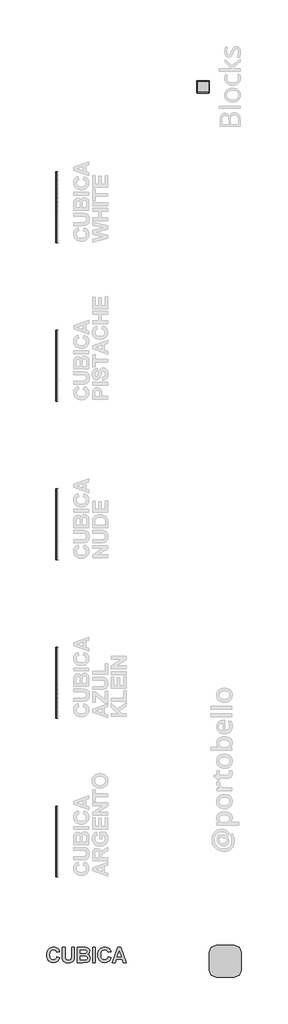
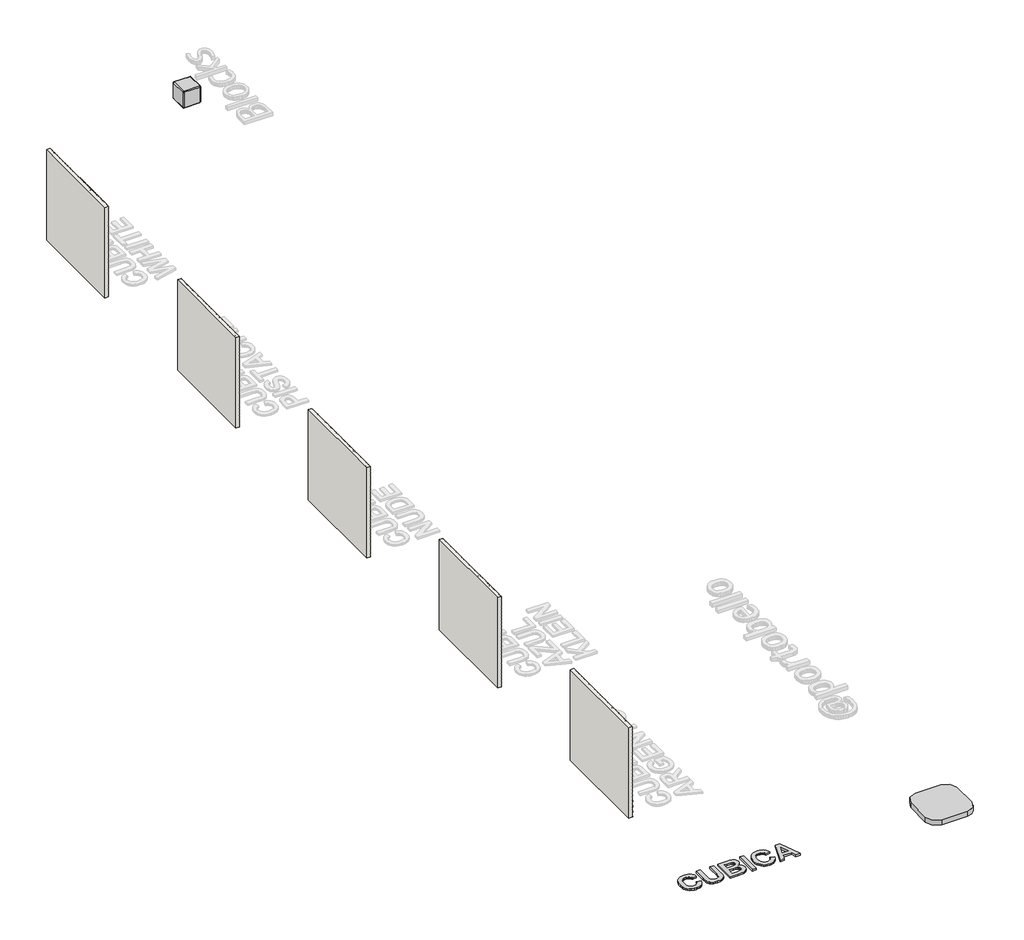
# One storey, part 1 of 121: 111 proxies, 5 walls, 1 furniture element.
"""IFC4 building model written with IfcOpenShell, lengths in millimetres."""

from ifc_helpers import new_model, si_unit, origin, origin_with_axes, place, context, project, spatial, polyline, outline, extrude, transform, mapped, element, save
from components import generic_models_9f50cdec, generic_models_b2b2c5c1, generic_models_9bf73f6f, generic_models_5d175859, generic_models_45888c4d, generic_models_021229c9, generic_models_95f85f1d, branco_22256ad2

model = new_model("IFC4")

# Units and contexts
model_context = context("Model", 3, world=origin())
ifc_project = project(units=[si_unit("LENGTHUNIT", "METRE", prefix="MILLI")], contexts=[model_context])

# Site, building, storey
site = spatial("IfcSite", under=ifc_project)
building = spatial("IfcBuilding", under=site)
storey = spatial("IfcBuildingStorey", under=building, Name="PORTOBELLO - SHOWROOM", Elevation=0.0)

# Proxies
placement = place(None, origin())
generic_models_shape = generic_models_9f50cdec(model_context)
element("IfcBuildingElementProxy", 1, Name="Blks_Instagram : Único", ObjectType="Blks_Instagram : Único", at=placement, inside=storey, context=model_context, shape_type="MappedRepresentation", body=[
    mapped(generic_models_shape, transform((157109.7314708, -9839.6950082, 0.0), x_axis=(1.0, 0.0, 0.0), y_axis=(0.0, 1.0, 0.0), z_axis=(0.0, 0.0, 1.0))),
])
generic_models_2_shape = generic_models_b2b2c5c1(model_context)
element("IfcBuildingElementProxy", 2, Name="PBSHOP - CUBICA ARGENTO 4,8X8,3 : CUBICA ARGENTO - POSIÇÃO 01", ObjectType="PBSHOP - CUBICA ARGENTO 4,8X8,3 : CUBICA ARGENTO - POSIÇÃO 01", at=placement, inside=storey, context=model_context, shape_type="MappedRepresentation", body=[
    mapped(generic_models_2_shape, transform((150369.5341846, -6403.4522544, 39.4221668), x_axis=(0.0, 1.0, 0.0), y_axis=(0.0, 0.0, 1.0), z_axis=(1.0, 0.0, 0.0))),
])
element("IfcBuildingElementProxy", 3, Name="PBSHOP - CUBICA ARGENTO 4,8X8,3 : CUBICA ARGENTO - POSIÇÃO 01", ObjectType="PBSHOP - CUBICA ARGENTO 4,8X8,3 : CUBICA ARGENTO - POSIÇÃO 01", at=placement, inside=storey, context=model_context, shape_type="MappedRepresentation", body=[
    mapped(generic_models_2_shape, transform((150369.5341846, -6312.6129852, 39.4221668), x_axis=(0.0, 1.0, 0.0), y_axis=(0.0, 0.0, 1.0), z_axis=(1.0, 0.0, 0.0))),
])
element("IfcBuildingElementProxy", 4, Name="PBSHOP - CUBICA ARGENTO 4,8X8,3 : CUBICA ARGENTO - POSIÇÃO 01", ObjectType="PBSHOP - CUBICA ARGENTO 4,8X8,3 : CUBICA ARGENTO - POSIÇÃO 01", at=placement, inside=storey, context=model_context, shape_type="MappedRepresentation", body=[
    mapped(generic_models_2_shape, transform((150369.5341846, -6221.7737159, 39.4221668), x_axis=(0.0, 1.0, 0.0), y_axis=(0.0, 0.0, 1.0), z_axis=(1.0, 0.0, 0.0))),
])
element("IfcBuildingElementProxy", 5, Name="PBSHOP - CUBICA ARGENTO 4,8X8,3 : CUBICA ARGENTO - POSIÇÃO 01", ObjectType="PBSHOP - CUBICA ARGENTO 4,8X8,3 : CUBICA ARGENTO - POSIÇÃO 01", at=placement, inside=storey, context=model_context, shape_type="MappedRepresentation", body=[
    mapped(generic_models_2_shape, transform((150369.5341846, -6130.9344467, 39.4221668), x_axis=(0.0, 1.0, 0.0), y_axis=(0.0, 0.0, 1.0), z_axis=(1.0, 0.0, 0.0))),
])
element("IfcBuildingElementProxy", 6, Name="PBSHOP - CUBICA ARGENTO 4,8X8,3 : CUBICA ARGENTO - POSIÇÃO 01", ObjectType="PBSHOP - CUBICA ARGENTO 4,8X8,3 : CUBICA ARGENTO - POSIÇÃO 01", at=placement, inside=storey, context=model_context, shape_type="MappedRepresentation", body=[
    mapped(generic_models_2_shape, transform((150369.5341846, -6040.0951775, 39.4221668), x_axis=(0.0, 1.0, 0.0), y_axis=(0.0, 0.0, 1.0), z_axis=(1.0, 0.0, 0.0))),
])
element("IfcBuildingElementProxy", 7, Name="PBSHOP - CUBICA ARGENTO 4,8X8,3 : CUBICA ARGENTO - POSIÇÃO 01", ObjectType="PBSHOP - CUBICA ARGENTO 4,8X8,3 : CUBICA ARGENTO - POSIÇÃO 01", at=placement, inside=storey, context=model_context, shape_type="MappedRepresentation", body=[
    mapped(generic_models_2_shape, transform((150369.5341846, -6358.0326198, 118.3568052), x_axis=(0.0, 1.0, 0.0), y_axis=(0.0, 0.0, 1.0), z_axis=(1.0, 0.0, 0.0))),
])
element("IfcBuildingElementProxy", 8, Name="PBSHOP - CUBICA ARGENTO 4,8X8,3 : CUBICA ARGENTO - POSIÇÃO 01", ObjectType="PBSHOP - CUBICA ARGENTO 4,8X8,3 : CUBICA ARGENTO - POSIÇÃO 01", at=placement, inside=storey, context=model_context, shape_type="MappedRepresentation", body=[
    mapped(generic_models_2_shape, transform((150369.5341846, -6267.1933506, 118.3568052), x_axis=(0.0, 1.0, 0.0), y_axis=(0.0, 0.0, 1.0), z_axis=(1.0, 0.0, 0.0))),
])
element("IfcBuildingElementProxy", 9, Name="PBSHOP - CUBICA ARGENTO 4,8X8,3 : CUBICA ARGENTO - POSIÇÃO 01", ObjectType="PBSHOP - CUBICA ARGENTO 4,8X8,3 : CUBICA ARGENTO - POSIÇÃO 01", at=placement, inside=storey, context=model_context, shape_type="MappedRepresentation", body=[
    mapped(generic_models_2_shape, transform((150369.5341846, -6176.3540813, 118.3568052), x_axis=(0.0, 1.0, 0.0), y_axis=(0.0, 0.0, 1.0), z_axis=(1.0, 0.0, 0.0))),
])
element("IfcBuildingElementProxy", 10, Name="PBSHOP - CUBICA ARGENTO 4,8X8,3 : CUBICA ARGENTO - POSIÇÃO 01", ObjectType="PBSHOP - CUBICA ARGENTO 4,8X8,3 : CUBICA ARGENTO - POSIÇÃO 01", at=placement, inside=storey, context=model_context, shape_type="MappedRepresentation", body=[
    mapped(generic_models_2_shape, transform((150369.5341846, -6085.5148121, 118.3568052), x_axis=(0.0, 1.0, 0.0), y_axis=(0.0, 0.0, 1.0), z_axis=(1.0, 0.0, 0.0))),
])
element("IfcBuildingElementProxy", 11, Name="PBSHOP - CUBICA ARGENTO 4,8X8,3 : CUBICA ARGENTO - POSIÇÃO 01", ObjectType="PBSHOP - CUBICA ARGENTO 4,8X8,3 : CUBICA ARGENTO - POSIÇÃO 01", at=placement, inside=storey, context=model_context, shape_type="MappedRepresentation", body=[
    mapped(generic_models_2_shape, transform((150369.5341846, -6403.4522544, 197.2914436), x_axis=(0.0, 1.0, 0.0), y_axis=(0.0, 0.0, 1.0), z_axis=(1.0, 0.0, 0.0))),
])
element("IfcBuildingElementProxy", 12, Name="PBSHOP - CUBICA ARGENTO 4,8X8,3 : CUBICA ARGENTO - POSIÇÃO 01", ObjectType="PBSHOP - CUBICA ARGENTO 4,8X8,3 : CUBICA ARGENTO - POSIÇÃO 01", at=placement, inside=storey, context=model_context, shape_type="MappedRepresentation", body=[
    mapped(generic_models_2_shape, transform((150369.5341846, -6312.6129852, 197.2914436), x_axis=(0.0, 1.0, 0.0), y_axis=(0.0, 0.0, 1.0), z_axis=(1.0, 0.0, 0.0))),
])
element("IfcBuildingElementProxy", 13, Name="PBSHOP - CUBICA ARGENTO 4,8X8,3 : CUBICA ARGENTO - POSIÇÃO 01", ObjectType="PBSHOP - CUBICA ARGENTO 4,8X8,3 : CUBICA ARGENTO - POSIÇÃO 01", at=placement, inside=storey, context=model_context, shape_type="MappedRepresentation", body=[
    mapped(generic_models_2_shape, transform((150369.5341846, -6221.7737159, 197.2914436), x_axis=(0.0, 1.0, 0.0), y_axis=(0.0, 0.0, 1.0), z_axis=(1.0, 0.0, 0.0))),
])
element("IfcBuildingElementProxy", 14, Name="PBSHOP - CUBICA ARGENTO 4,8X8,3 : CUBICA ARGENTO - POSIÇÃO 01", ObjectType="PBSHOP - CUBICA ARGENTO 4,8X8,3 : CUBICA ARGENTO - POSIÇÃO 01", at=placement, inside=storey, context=model_context, shape_type="MappedRepresentation", body=[
    mapped(generic_models_2_shape, transform((150369.5341846, -6130.9344467, 197.2914436), x_axis=(0.0, 1.0, 0.0), y_axis=(0.0, 0.0, 1.0), z_axis=(1.0, 0.0, 0.0))),
])
element("IfcBuildingElementProxy", 15, Name="PBSHOP - CUBICA ARGENTO 4,8X8,3 : CUBICA ARGENTO - POSIÇÃO 01", ObjectType="PBSHOP - CUBICA ARGENTO 4,8X8,3 : CUBICA ARGENTO - POSIÇÃO 01", at=placement, inside=storey, context=model_context, shape_type="MappedRepresentation", body=[
    mapped(generic_models_2_shape, transform((150369.5341846, -6040.0951775, 197.2914436), x_axis=(0.0, 1.0, 0.0), y_axis=(0.0, 0.0, 1.0), z_axis=(1.0, 0.0, 0.0))),
])
element("IfcBuildingElementProxy", 16, Name="PBSHOP - CUBICA ARGENTO 4,8X8,3 : CUBICA ARGENTO - POSIÇÃO 01", ObjectType="PBSHOP - CUBICA ARGENTO 4,8X8,3 : CUBICA ARGENTO - POSIÇÃO 01", at=placement, inside=storey, context=model_context, shape_type="MappedRepresentation", body=[
    mapped(generic_models_2_shape, transform((150369.5341846, -6358.0326198, 276.2260819), x_axis=(0.0, 1.0, 0.0), y_axis=(0.0, 0.0, 1.0), z_axis=(1.0, 0.0, 0.0))),
])
element("IfcBuildingElementProxy", 17, Name="PBSHOP - CUBICA ARGENTO 4,8X8,3 : CUBICA ARGENTO - POSIÇÃO 01", ObjectType="PBSHOP - CUBICA ARGENTO 4,8X8,3 : CUBICA ARGENTO - POSIÇÃO 01", at=placement, inside=storey, context=model_context, shape_type="MappedRepresentation", body=[
    mapped(generic_models_2_shape, transform((150369.5341846, -6267.1933506, 276.2260819), x_axis=(0.0, 1.0, 0.0), y_axis=(0.0, 0.0, 1.0), z_axis=(1.0, 0.0, 0.0))),
])
element("IfcBuildingElementProxy", 18, Name="PBSHOP - CUBICA ARGENTO 4,8X8,3 : CUBICA ARGENTO - POSIÇÃO 01", ObjectType="PBSHOP - CUBICA ARGENTO 4,8X8,3 : CUBICA ARGENTO - POSIÇÃO 01", at=placement, inside=storey, context=model_context, shape_type="MappedRepresentation", body=[
    mapped(generic_models_2_shape, transform((150369.5341846, -6176.3540813, 276.2260819), x_axis=(0.0, 1.0, 0.0), y_axis=(0.0, 0.0, 1.0), z_axis=(1.0, 0.0, 0.0))),
])
element("IfcBuildingElementProxy", 19, Name="PBSHOP - CUBICA ARGENTO 4,8X8,3 : CUBICA ARGENTO - POSIÇÃO 01", ObjectType="PBSHOP - CUBICA ARGENTO 4,8X8,3 : CUBICA ARGENTO - POSIÇÃO 01", at=placement, inside=storey, context=model_context, shape_type="MappedRepresentation", body=[
    mapped(generic_models_2_shape, transform((150369.5341846, -6085.5148121, 276.2260819), x_axis=(0.0, 1.0, 0.0), y_axis=(0.0, 0.0, 1.0), z_axis=(1.0, 0.0, 0.0))),
])
element("IfcBuildingElementProxy", 20, Name="PBSHOP - CUBICA ARGENTO 4,8X8,3 : CUBICA ARGENTO - POSIÇÃO 01", ObjectType="PBSHOP - CUBICA ARGENTO 4,8X8,3 : CUBICA ARGENTO - POSIÇÃO 01", at=placement, inside=storey, context=model_context, shape_type="MappedRepresentation", body=[
    mapped(generic_models_2_shape, transform((150369.5341846, -6403.4522544, 355.1607203), x_axis=(0.0, 1.0, 0.0), y_axis=(0.0, 0.0, 1.0), z_axis=(1.0, 0.0, 0.0))),
])
element("IfcBuildingElementProxy", 21, Name="PBSHOP - CUBICA ARGENTO 4,8X8,3 : CUBICA ARGENTO - POSIÇÃO 01", ObjectType="PBSHOP - CUBICA ARGENTO 4,8X8,3 : CUBICA ARGENTO - POSIÇÃO 01", at=placement, inside=storey, context=model_context, shape_type="MappedRepresentation", body=[
    mapped(generic_models_2_shape, transform((150369.5341846, -6312.6129852, 355.1607203), x_axis=(0.0, 1.0, 0.0), y_axis=(0.0, 0.0, 1.0), z_axis=(1.0, 0.0, 0.0))),
])
element("IfcBuildingElementProxy", 22, Name="PBSHOP - CUBICA ARGENTO 4,8X8,3 : CUBICA ARGENTO - POSIÇÃO 01", ObjectType="PBSHOP - CUBICA ARGENTO 4,8X8,3 : CUBICA ARGENTO - POSIÇÃO 01", at=placement, inside=storey, context=model_context, shape_type="MappedRepresentation", body=[
    mapped(generic_models_2_shape, transform((150369.5341846, -6221.7737159, 355.1607203), x_axis=(0.0, 1.0, 0.0), y_axis=(0.0, 0.0, 1.0), z_axis=(1.0, 0.0, 0.0))),
])
element("IfcBuildingElementProxy", 23, Name="PBSHOP - CUBICA ARGENTO 4,8X8,3 : CUBICA ARGENTO - POSIÇÃO 01", ObjectType="PBSHOP - CUBICA ARGENTO 4,8X8,3 : CUBICA ARGENTO - POSIÇÃO 01", at=placement, inside=storey, context=model_context, shape_type="MappedRepresentation", body=[
    mapped(generic_models_2_shape, transform((150369.5341846, -6130.9344467, 355.1607203), x_axis=(0.0, 1.0, 0.0), y_axis=(0.0, 0.0, 1.0), z_axis=(1.0, 0.0, 0.0))),
])
element("IfcBuildingElementProxy", 24, Name="PBSHOP - CUBICA ARGENTO 4,8X8,3 : CUBICA ARGENTO - POSIÇÃO 01", ObjectType="PBSHOP - CUBICA ARGENTO 4,8X8,3 : CUBICA ARGENTO - POSIÇÃO 01", at=placement, inside=storey, context=model_context, shape_type="MappedRepresentation", body=[
    mapped(generic_models_2_shape, transform((150369.5341846, -6040.0951775, 355.1607203), x_axis=(0.0, 1.0, 0.0), y_axis=(0.0, 0.0, 1.0), z_axis=(1.0, 0.0, 0.0))),
])
element("IfcBuildingElementProxy", 25, Name="PBSHOP - CUBICA ARGENTO 4,8X8,3 : CUBICA ARGENTO - POSIÇÃO 01", ObjectType="PBSHOP - CUBICA ARGENTO 4,8X8,3 : CUBICA ARGENTO - POSIÇÃO 01", at=placement, inside=storey, context=model_context, shape_type="MappedRepresentation", body=[
    mapped(generic_models_2_shape, transform((150369.5341846, -6358.0326198, 434.0953587), x_axis=(0.0, 1.0, 0.0), y_axis=(0.0, 0.0, 1.0), z_axis=(1.0, 0.0, 0.0))),
])
element("IfcBuildingElementProxy", 26, Name="PBSHOP - CUBICA ARGENTO 4,8X8,3 : CUBICA ARGENTO - POSIÇÃO 01", ObjectType="PBSHOP - CUBICA ARGENTO 4,8X8,3 : CUBICA ARGENTO - POSIÇÃO 01", at=placement, inside=storey, context=model_context, shape_type="MappedRepresentation", body=[
    mapped(generic_models_2_shape, transform((150369.5341846, -6267.1933506, 434.0953587), x_axis=(0.0, 1.0, 0.0), y_axis=(0.0, 0.0, 1.0), z_axis=(1.0, 0.0, 0.0))),
])
element("IfcBuildingElementProxy", 27, Name="PBSHOP - CUBICA ARGENTO 4,8X8,3 : CUBICA ARGENTO - POSIÇÃO 01", ObjectType="PBSHOP - CUBICA ARGENTO 4,8X8,3 : CUBICA ARGENTO - POSIÇÃO 01", at=placement, inside=storey, context=model_context, shape_type="MappedRepresentation", body=[
    mapped(generic_models_2_shape, transform((150369.5341846, -6176.3540813, 434.0953587), x_axis=(0.0, 1.0, 0.0), y_axis=(0.0, 0.0, 1.0), z_axis=(1.0, 0.0, 0.0))),
])
element("IfcBuildingElementProxy", 28, Name="PBSHOP - CUBICA ARGENTO 4,8X8,3 : CUBICA ARGENTO - POSIÇÃO 01", ObjectType="PBSHOP - CUBICA ARGENTO 4,8X8,3 : CUBICA ARGENTO - POSIÇÃO 01", at=placement, inside=storey, context=model_context, shape_type="MappedRepresentation", body=[
    mapped(generic_models_2_shape, transform((150369.5341846, -6085.5148121, 434.0953587), x_axis=(0.0, 1.0, 0.0), y_axis=(0.0, 0.0, 1.0), z_axis=(1.0, 0.0, 0.0))),
])
element("IfcBuildingElementProxy", 29, Name="PBSHOP - CUBICA ARGENTO 4,8X8,3 : CUBICA ARGENTO - POSIÇÃO 01", ObjectType="PBSHOP - CUBICA ARGENTO 4,8X8,3 : CUBICA ARGENTO - POSIÇÃO 01", at=placement, inside=storey, context=model_context, shape_type="MappedRepresentation", body=[
    mapped(generic_models_2_shape, transform((150369.5341846, -6403.4522544, 513.0299971), x_axis=(0.0, 1.0, 0.0), y_axis=(0.0, 0.0, 1.0), z_axis=(1.0, 0.0, 0.0))),
])
element("IfcBuildingElementProxy", 30, Name="PBSHOP - CUBICA ARGENTO 4,8X8,3 : CUBICA ARGENTO - POSIÇÃO 01", ObjectType="PBSHOP - CUBICA ARGENTO 4,8X8,3 : CUBICA ARGENTO - POSIÇÃO 01", at=placement, inside=storey, context=model_context, shape_type="MappedRepresentation", body=[
    mapped(generic_models_2_shape, transform((150369.5341846, -6312.6129852, 513.0299971), x_axis=(0.0, 1.0, 0.0), y_axis=(0.0, 0.0, 1.0), z_axis=(1.0, 0.0, 0.0))),
])
element("IfcBuildingElementProxy", 31, Name="PBSHOP - CUBICA ARGENTO 4,8X8,3 : CUBICA ARGENTO - POSIÇÃO 01", ObjectType="PBSHOP - CUBICA ARGENTO 4,8X8,3 : CUBICA ARGENTO - POSIÇÃO 01", at=placement, inside=storey, context=model_context, shape_type="MappedRepresentation", body=[
    mapped(generic_models_2_shape, transform((150369.5341846, -6221.7737159, 513.0299971), x_axis=(0.0, 1.0, 0.0), y_axis=(0.0, 0.0, 1.0), z_axis=(1.0, 0.0, 0.0))),
])
element("IfcBuildingElementProxy", 32, Name="PBSHOP - CUBICA ARGENTO 4,8X8,3 : CUBICA ARGENTO - POSIÇÃO 01", ObjectType="PBSHOP - CUBICA ARGENTO 4,8X8,3 : CUBICA ARGENTO - POSIÇÃO 01", at=placement, inside=storey, context=model_context, shape_type="MappedRepresentation", body=[
    mapped(generic_models_2_shape, transform((150369.5341846, -6130.9344467, 513.0299971), x_axis=(0.0, 1.0, 0.0), y_axis=(0.0, 0.0, 1.0), z_axis=(1.0, 0.0, 0.0))),
])
element("IfcBuildingElementProxy", 33, Name="PBSHOP - CUBICA ARGENTO 4,8X8,3 : CUBICA ARGENTO - POSIÇÃO 01", ObjectType="PBSHOP - CUBICA ARGENTO 4,8X8,3 : CUBICA ARGENTO - POSIÇÃO 01", at=placement, inside=storey, context=model_context, shape_type="MappedRepresentation", body=[
    mapped(generic_models_2_shape, transform((150369.5341846, -6040.0951775, 513.0299971), x_axis=(0.0, 1.0, 0.0), y_axis=(0.0, 0.0, 1.0), z_axis=(1.0, 0.0, 0.0))),
])
element("IfcBuildingElementProxy", 34, Name="PBSHOP - CUBICA ARGENTO 4,8X8,3 : CUBICA ARGENTO - POSIÇÃO 01", ObjectType="PBSHOP - CUBICA ARGENTO 4,8X8,3 : CUBICA ARGENTO - POSIÇÃO 01", at=placement, inside=storey, context=model_context, shape_type="MappedRepresentation", body=[
    mapped(generic_models_2_shape, transform((150369.5341846, -6358.0326198, 591.9646354), x_axis=(0.0, 1.0, 0.0), y_axis=(0.0, 0.0, 1.0), z_axis=(1.0, 0.0, 0.0))),
])
element("IfcBuildingElementProxy", 35, Name="PBSHOP - CUBICA ARGENTO 4,8X8,3 : CUBICA ARGENTO - POSIÇÃO 01", ObjectType="PBSHOP - CUBICA ARGENTO 4,8X8,3 : CUBICA ARGENTO - POSIÇÃO 01", at=placement, inside=storey, context=model_context, shape_type="MappedRepresentation", body=[
    mapped(generic_models_2_shape, transform((150369.5341846, -6267.1933506, 591.9646354), x_axis=(0.0, 1.0, 0.0), y_axis=(0.0, 0.0, 1.0), z_axis=(1.0, 0.0, 0.0))),
])
element("IfcBuildingElementProxy", 36, Name="PBSHOP - CUBICA ARGENTO 4,8X8,3 : CUBICA ARGENTO - POSIÇÃO 01", ObjectType="PBSHOP - CUBICA ARGENTO 4,8X8,3 : CUBICA ARGENTO - POSIÇÃO 01", at=placement, inside=storey, context=model_context, shape_type="MappedRepresentation", body=[
    mapped(generic_models_2_shape, transform((150369.5341846, -6176.3540813, 591.9646354), x_axis=(0.0, 1.0, 0.0), y_axis=(0.0, 0.0, 1.0), z_axis=(1.0, 0.0, 0.0))),
])
element("IfcBuildingElementProxy", 37, Name="PBSHOP - CUBICA ARGENTO 4,8X8,3 : CUBICA ARGENTO - POSIÇÃO 01", ObjectType="PBSHOP - CUBICA ARGENTO 4,8X8,3 : CUBICA ARGENTO - POSIÇÃO 01", at=placement, inside=storey, context=model_context, shape_type="MappedRepresentation", body=[
    mapped(generic_models_2_shape, transform((150369.5341846, -6085.5148121, 591.9646354), x_axis=(0.0, 1.0, 0.0), y_axis=(0.0, 0.0, 1.0), z_axis=(1.0, 0.0, 0.0))),
])
generic_models_3_shape = generic_models_9bf73f6f(model_context)
element("IfcBuildingElementProxy", 38, Name="PBSHOP - CUBICA ARGENTO 4,8X8,3 : CUBICA ARGENTO - POSIÇÃO 03", ObjectType="PBSHOP - CUBICA ARGENTO 4,8X8,3 : CUBICA ARGENTO - POSIÇÃO 03", at=placement, inside=storey, context=model_context, shape_type="MappedRepresentation", body=[
    mapped(generic_models_3_shape, transform((150369.5341846, -6380.740278, 78.8482756), x_axis=(0.0, 1.0, 0.0), y_axis=(0.0, 0.0, 1.0), z_axis=(1.0, 0.0, 0.0))),
])
element("IfcBuildingElementProxy", 39, Name="PBSHOP - CUBICA ARGENTO 4,8X8,3 : CUBICA ARGENTO - POSIÇÃO 03", ObjectType="PBSHOP - CUBICA ARGENTO 4,8X8,3 : CUBICA ARGENTO - POSIÇÃO 03", at=placement, inside=storey, context=model_context, shape_type="MappedRepresentation", body=[
    mapped(generic_models_3_shape, transform((150369.5341846, -6289.9010087, 78.8482756), x_axis=(0.0, 1.0, 0.0), y_axis=(0.0, 0.0, 1.0), z_axis=(1.0, 0.0, 0.0))),
])
element("IfcBuildingElementProxy", 40, Name="PBSHOP - CUBICA ARGENTO 4,8X8,3 : CUBICA ARGENTO - POSIÇÃO 03", ObjectType="PBSHOP - CUBICA ARGENTO 4,8X8,3 : CUBICA ARGENTO - POSIÇÃO 03", at=placement, inside=storey, context=model_context, shape_type="MappedRepresentation", body=[
    mapped(generic_models_3_shape, transform((150369.5341846, -6199.0617395, 78.8482756), x_axis=(0.0, 1.0, 0.0), y_axis=(0.0, 0.0, 1.0), z_axis=(1.0, 0.0, 0.0))),
])
element("IfcBuildingElementProxy", 41, Name="PBSHOP - CUBICA ARGENTO 4,8X8,3 : CUBICA ARGENTO - POSIÇÃO 03", ObjectType="PBSHOP - CUBICA ARGENTO 4,8X8,3 : CUBICA ARGENTO - POSIÇÃO 03", at=placement, inside=storey, context=model_context, shape_type="MappedRepresentation", body=[
    mapped(generic_models_3_shape, transform((150369.5341846, -6108.2224702, 78.8482756), x_axis=(0.0, 1.0, 0.0), y_axis=(0.0, 0.0, 1.0), z_axis=(1.0, 0.0, 0.0))),
])
element("IfcBuildingElementProxy", 42, Name="PBSHOP - CUBICA ARGENTO 4,8X8,3 : CUBICA ARGENTO - POSIÇÃO 03", ObjectType="PBSHOP - CUBICA ARGENTO 4,8X8,3 : CUBICA ARGENTO - POSIÇÃO 03", at=placement, inside=storey, context=model_context, shape_type="MappedRepresentation", body=[
    mapped(generic_models_3_shape, transform((150369.5341846, -6017.383201, 78.8482756), x_axis=(0.0, 1.0, 0.0), y_axis=(0.0, 0.0, 1.0), z_axis=(1.0, 0.0, 0.0))),
])
element("IfcBuildingElementProxy", 43, Name="PBSHOP - CUBICA ARGENTO 4,8X8,3 : CUBICA ARGENTO - POSIÇÃO 03", ObjectType="PBSHOP - CUBICA ARGENTO 4,8X8,3 : CUBICA ARGENTO - POSIÇÃO 03", at=placement, inside=storey, context=model_context, shape_type="MappedRepresentation", body=[
    mapped(generic_models_3_shape, transform((150369.5341846, -6335.3206433, 157.7829139), x_axis=(0.0, 1.0, 0.0), y_axis=(0.0, 0.0, 1.0), z_axis=(1.0, 0.0, 0.0))),
])
element("IfcBuildingElementProxy", 44, Name="PBSHOP - CUBICA ARGENTO 4,8X8,3 : CUBICA ARGENTO - POSIÇÃO 03", ObjectType="PBSHOP - CUBICA ARGENTO 4,8X8,3 : CUBICA ARGENTO - POSIÇÃO 03", at=placement, inside=storey, context=model_context, shape_type="MappedRepresentation", body=[
    mapped(generic_models_3_shape, transform((150369.5341846, -6244.4813741, 157.7829139), x_axis=(0.0, 1.0, 0.0), y_axis=(0.0, 0.0, 1.0), z_axis=(1.0, 0.0, 0.0))),
])
element("IfcBuildingElementProxy", 45, Name="PBSHOP - CUBICA ARGENTO 4,8X8,3 : CUBICA ARGENTO - POSIÇÃO 03", ObjectType="PBSHOP - CUBICA ARGENTO 4,8X8,3 : CUBICA ARGENTO - POSIÇÃO 03", at=placement, inside=storey, context=model_context, shape_type="MappedRepresentation", body=[
    mapped(generic_models_3_shape, transform((150369.5341846, -6153.6421048, 157.7829139), x_axis=(0.0, 1.0, 0.0), y_axis=(0.0, 0.0, 1.0), z_axis=(1.0, 0.0, 0.0))),
])
element("IfcBuildingElementProxy", 46, Name="PBSHOP - CUBICA ARGENTO 4,8X8,3 : CUBICA ARGENTO - POSIÇÃO 03", ObjectType="PBSHOP - CUBICA ARGENTO 4,8X8,3 : CUBICA ARGENTO - POSIÇÃO 03", at=placement, inside=storey, context=model_context, shape_type="MappedRepresentation", body=[
    mapped(generic_models_3_shape, transform((150369.5341846, -6062.8028356, 157.7829139), x_axis=(0.0, 1.0, 0.0), y_axis=(0.0, 0.0, 1.0), z_axis=(1.0, 0.0, 0.0))),
])
element("IfcBuildingElementProxy", 47, Name="PBSHOP - CUBICA ARGENTO 4,8X8,3 : CUBICA ARGENTO - POSIÇÃO 03", ObjectType="PBSHOP - CUBICA ARGENTO 4,8X8,3 : CUBICA ARGENTO - POSIÇÃO 03", at=placement, inside=storey, context=model_context, shape_type="MappedRepresentation", body=[
    mapped(generic_models_3_shape, transform((150369.5341846, -6380.740278, 236.7175523), x_axis=(0.0, 1.0, 0.0), y_axis=(0.0, 0.0, 1.0), z_axis=(1.0, 0.0, 0.0))),
])
element("IfcBuildingElementProxy", 48, Name="PBSHOP - CUBICA ARGENTO 4,8X8,3 : CUBICA ARGENTO - POSIÇÃO 03", ObjectType="PBSHOP - CUBICA ARGENTO 4,8X8,3 : CUBICA ARGENTO - POSIÇÃO 03", at=placement, inside=storey, context=model_context, shape_type="MappedRepresentation", body=[
    mapped(generic_models_3_shape, transform((150369.5341846, -6289.9010087, 236.7175523), x_axis=(0.0, 1.0, 0.0), y_axis=(0.0, 0.0, 1.0), z_axis=(1.0, 0.0, 0.0))),
])
element("IfcBuildingElementProxy", 49, Name="PBSHOP - CUBICA ARGENTO 4,8X8,3 : CUBICA ARGENTO - POSIÇÃO 03", ObjectType="PBSHOP - CUBICA ARGENTO 4,8X8,3 : CUBICA ARGENTO - POSIÇÃO 03", at=placement, inside=storey, context=model_context, shape_type="MappedRepresentation", body=[
    mapped(generic_models_3_shape, transform((150369.5341846, -6199.0617395, 236.7175523), x_axis=(0.0, 1.0, 0.0), y_axis=(0.0, 0.0, 1.0), z_axis=(1.0, 0.0, 0.0))),
])
element("IfcBuildingElementProxy", 50, Name="PBSHOP - CUBICA ARGENTO 4,8X8,3 : CUBICA ARGENTO - POSIÇÃO 03", ObjectType="PBSHOP - CUBICA ARGENTO 4,8X8,3 : CUBICA ARGENTO - POSIÇÃO 03", at=placement, inside=storey, context=model_context, shape_type="MappedRepresentation", body=[
    mapped(generic_models_3_shape, transform((150369.5341846, -6108.2224702, 236.7175523), x_axis=(0.0, 1.0, 0.0), y_axis=(0.0, 0.0, 1.0), z_axis=(1.0, 0.0, 0.0))),
])
element("IfcBuildingElementProxy", 51, Name="PBSHOP - CUBICA ARGENTO 4,8X8,3 : CUBICA ARGENTO - POSIÇÃO 03", ObjectType="PBSHOP - CUBICA ARGENTO 4,8X8,3 : CUBICA ARGENTO - POSIÇÃO 03", at=placement, inside=storey, context=model_context, shape_type="MappedRepresentation", body=[
    mapped(generic_models_3_shape, transform((150369.5341846, -6017.383201, 236.7175523), x_axis=(0.0, 1.0, 0.0), y_axis=(0.0, 0.0, 1.0), z_axis=(1.0, 0.0, 0.0))),
])
element("IfcBuildingElementProxy", 52, Name="PBSHOP - CUBICA ARGENTO 4,8X8,3 : CUBICA ARGENTO - POSIÇÃO 03", ObjectType="PBSHOP - CUBICA ARGENTO 4,8X8,3 : CUBICA ARGENTO - POSIÇÃO 03", at=placement, inside=storey, context=model_context, shape_type="MappedRepresentation", body=[
    mapped(generic_models_3_shape, transform((150369.5341846, -6335.3206433, 315.6521907), x_axis=(0.0, 1.0, 0.0), y_axis=(0.0, 0.0, 1.0), z_axis=(1.0, 0.0, 0.0))),
])
element("IfcBuildingElementProxy", 53, Name="PBSHOP - CUBICA ARGENTO 4,8X8,3 : CUBICA ARGENTO - POSIÇÃO 03", ObjectType="PBSHOP - CUBICA ARGENTO 4,8X8,3 : CUBICA ARGENTO - POSIÇÃO 03", at=placement, inside=storey, context=model_context, shape_type="MappedRepresentation", body=[
    mapped(generic_models_3_shape, transform((150369.5341846, -6244.4813741, 315.6521907), x_axis=(0.0, 1.0, 0.0), y_axis=(0.0, 0.0, 1.0), z_axis=(1.0, 0.0, 0.0))),
])
element("IfcBuildingElementProxy", 54, Name="PBSHOP - CUBICA ARGENTO 4,8X8,3 : CUBICA ARGENTO - POSIÇÃO 03", ObjectType="PBSHOP - CUBICA ARGENTO 4,8X8,3 : CUBICA ARGENTO - POSIÇÃO 03", at=placement, inside=storey, context=model_context, shape_type="MappedRepresentation", body=[
    mapped(generic_models_3_shape, transform((150369.5341846, -6153.6421048, 315.6521907), x_axis=(0.0, 1.0, 0.0), y_axis=(0.0, 0.0, 1.0), z_axis=(1.0, 0.0, 0.0))),
])
element("IfcBuildingElementProxy", 55, Name="PBSHOP - CUBICA ARGENTO 4,8X8,3 : CUBICA ARGENTO - POSIÇÃO 03", ObjectType="PBSHOP - CUBICA ARGENTO 4,8X8,3 : CUBICA ARGENTO - POSIÇÃO 03", at=placement, inside=storey, context=model_context, shape_type="MappedRepresentation", body=[
    mapped(generic_models_3_shape, transform((150369.5341846, -6062.8028356, 315.6521907), x_axis=(0.0, 1.0, 0.0), y_axis=(0.0, 0.0, 1.0), z_axis=(1.0, 0.0, 0.0))),
])
element("IfcBuildingElementProxy", 56, Name="PBSHOP - CUBICA ARGENTO 4,8X8,3 : CUBICA ARGENTO - POSIÇÃO 03", ObjectType="PBSHOP - CUBICA ARGENTO 4,8X8,3 : CUBICA ARGENTO - POSIÇÃO 03", at=placement, inside=storey, context=model_context, shape_type="MappedRepresentation", body=[
    mapped(generic_models_3_shape, transform((150369.5341846, -6380.740278, 394.5868291), x_axis=(0.0, 1.0, 0.0), y_axis=(0.0, 0.0, 1.0), z_axis=(1.0, 0.0, 0.0))),
])
element("IfcBuildingElementProxy", 57, Name="PBSHOP - CUBICA ARGENTO 4,8X8,3 : CUBICA ARGENTO - POSIÇÃO 03", ObjectType="PBSHOP - CUBICA ARGENTO 4,8X8,3 : CUBICA ARGENTO - POSIÇÃO 03", at=placement, inside=storey, context=model_context, shape_type="MappedRepresentation", body=[
    mapped(generic_models_3_shape, transform((150369.5341846, -6289.9010087, 394.5868291), x_axis=(0.0, 1.0, 0.0), y_axis=(0.0, 0.0, 1.0), z_axis=(1.0, 0.0, 0.0))),
])
element("IfcBuildingElementProxy", 58, Name="PBSHOP - CUBICA ARGENTO 4,8X8,3 : CUBICA ARGENTO - POSIÇÃO 03", ObjectType="PBSHOP - CUBICA ARGENTO 4,8X8,3 : CUBICA ARGENTO - POSIÇÃO 03", at=placement, inside=storey, context=model_context, shape_type="MappedRepresentation", body=[
    mapped(generic_models_3_shape, transform((150369.5341846, -6199.0617395, 394.5868291), x_axis=(0.0, 1.0, 0.0), y_axis=(0.0, 0.0, 1.0), z_axis=(1.0, 0.0, 0.0))),
])
element("IfcBuildingElementProxy", 59, Name="PBSHOP - CUBICA ARGENTO 4,8X8,3 : CUBICA ARGENTO - POSIÇÃO 03", ObjectType="PBSHOP - CUBICA ARGENTO 4,8X8,3 : CUBICA ARGENTO - POSIÇÃO 03", at=placement, inside=storey, context=model_context, shape_type="MappedRepresentation", body=[
    mapped(generic_models_3_shape, transform((150369.5341846, -6108.2224702, 394.5868291), x_axis=(0.0, 1.0, 0.0), y_axis=(0.0, 0.0, 1.0), z_axis=(1.0, 0.0, 0.0))),
])
element("IfcBuildingElementProxy", 60, Name="PBSHOP - CUBICA ARGENTO 4,8X8,3 : CUBICA ARGENTO - POSIÇÃO 03", ObjectType="PBSHOP - CUBICA ARGENTO 4,8X8,3 : CUBICA ARGENTO - POSIÇÃO 03", at=placement, inside=storey, context=model_context, shape_type="MappedRepresentation", body=[
    mapped(generic_models_3_shape, transform((150369.5341846, -6017.383201, 394.5868291), x_axis=(0.0, 1.0, 0.0), y_axis=(0.0, 0.0, 1.0), z_axis=(1.0, 0.0, 0.0))),
])
element("IfcBuildingElementProxy", 61, Name="PBSHOP - CUBICA ARGENTO 4,8X8,3 : CUBICA ARGENTO - POSIÇÃO 03", ObjectType="PBSHOP - CUBICA ARGENTO 4,8X8,3 : CUBICA ARGENTO - POSIÇÃO 03", at=placement, inside=storey, context=model_context, shape_type="MappedRepresentation", body=[
    mapped(generic_models_3_shape, transform((150369.5341846, -6335.3206433, 473.5214674), x_axis=(0.0, 1.0, 0.0), y_axis=(0.0, 0.0, 1.0), z_axis=(1.0, 0.0, 0.0))),
])
element("IfcBuildingElementProxy", 62, Name="PBSHOP - CUBICA ARGENTO 4,8X8,3 : CUBICA ARGENTO - POSIÇÃO 03", ObjectType="PBSHOP - CUBICA ARGENTO 4,8X8,3 : CUBICA ARGENTO - POSIÇÃO 03", at=placement, inside=storey, context=model_context, shape_type="MappedRepresentation", body=[
    mapped(generic_models_3_shape, transform((150369.5341846, -6244.4813741, 473.5214674), x_axis=(0.0, 1.0, 0.0), y_axis=(0.0, 0.0, 1.0), z_axis=(1.0, 0.0, 0.0))),
])
element("IfcBuildingElementProxy", 63, Name="PBSHOP - CUBICA ARGENTO 4,8X8,3 : CUBICA ARGENTO - POSIÇÃO 03", ObjectType="PBSHOP - CUBICA ARGENTO 4,8X8,3 : CUBICA ARGENTO - POSIÇÃO 03", at=placement, inside=storey, context=model_context, shape_type="MappedRepresentation", body=[
    mapped(generic_models_3_shape, transform((150369.5341846, -6153.6421048, 473.5214674), x_axis=(0.0, 1.0, 0.0), y_axis=(0.0, 0.0, 1.0), z_axis=(1.0, 0.0, 0.0))),
])
element("IfcBuildingElementProxy", 64, Name="PBSHOP - CUBICA ARGENTO 4,8X8,3 : CUBICA ARGENTO - POSIÇÃO 03", ObjectType="PBSHOP - CUBICA ARGENTO 4,8X8,3 : CUBICA ARGENTO - POSIÇÃO 03", at=placement, inside=storey, context=model_context, shape_type="MappedRepresentation", body=[
    mapped(generic_models_3_shape, transform((150369.5341846, -6062.8028356, 473.5214674), x_axis=(0.0, 1.0, 0.0), y_axis=(0.0, 0.0, 1.0), z_axis=(1.0, 0.0, 0.0))),
])
element("IfcBuildingElementProxy", 65, Name="PBSHOP - CUBICA ARGENTO 4,8X8,3 : CUBICA ARGENTO - POSIÇÃO 03", ObjectType="PBSHOP - CUBICA ARGENTO 4,8X8,3 : CUBICA ARGENTO - POSIÇÃO 03", at=placement, inside=storey, context=model_context, shape_type="MappedRepresentation", body=[
    mapped(generic_models_3_shape, transform((150369.5341846, -6380.740278, 552.4561058), x_axis=(0.0, 1.0, 0.0), y_axis=(0.0, 0.0, 1.0), z_axis=(1.0, 0.0, 0.0))),
])
element("IfcBuildingElementProxy", 66, Name="PBSHOP - CUBICA ARGENTO 4,8X8,3 : CUBICA ARGENTO - POSIÇÃO 03", ObjectType="PBSHOP - CUBICA ARGENTO 4,8X8,3 : CUBICA ARGENTO - POSIÇÃO 03", at=placement, inside=storey, context=model_context, shape_type="MappedRepresentation", body=[
    mapped(generic_models_3_shape, transform((150369.5341846, -6289.9010087, 552.4561058), x_axis=(0.0, 1.0, 0.0), y_axis=(0.0, 0.0, 1.0), z_axis=(1.0, 0.0, 0.0))),
])
element("IfcBuildingElementProxy", 67, Name="PBSHOP - CUBICA ARGENTO 4,8X8,3 : CUBICA ARGENTO - POSIÇÃO 03", ObjectType="PBSHOP - CUBICA ARGENTO 4,8X8,3 : CUBICA ARGENTO - POSIÇÃO 03", at=placement, inside=storey, context=model_context, shape_type="MappedRepresentation", body=[
    mapped(generic_models_3_shape, transform((150369.5341846, -6199.0617395, 552.4561058), x_axis=(0.0, 1.0, 0.0), y_axis=(0.0, 0.0, 1.0), z_axis=(1.0, 0.0, 0.0))),
])
generic_models_4_shape = generic_models_5d175859(model_context)
element("IfcBuildingElementProxy", 68, Name="PBSHOP - CUBICA ARGENTO 4,8X8,3 : CUBICA ARGENTO - POSIÇÃO 01", ObjectType="PBSHOP - CUBICA ARGENTO 4,8X8,3 : CUBICA ARGENTO - POSIÇÃO 01", at=placement, inside=storey, context=model_context, shape_type="MappedRepresentation", body=[
    mapped(generic_models_4_shape, transform((150369.5341846, -6358.0283015, 39.4221668), x_axis=(0.0, -1.0, 0.0), y_axis=(0.0, 0.0, -1.0), z_axis=(1.0, 0.0, 0.0))),
])
element("IfcBuildingElementProxy", 69, Name="PBSHOP - CUBICA ARGENTO 4,8X8,3 : CUBICA ARGENTO - POSIÇÃO 01", ObjectType="PBSHOP - CUBICA ARGENTO 4,8X8,3 : CUBICA ARGENTO - POSIÇÃO 01", at=placement, inside=storey, context=model_context, shape_type="MappedRepresentation", body=[
    mapped(generic_models_4_shape, transform((150369.5341846, -6267.1890322, 39.4221668), x_axis=(0.0, -1.0, 0.0), y_axis=(0.0, 0.0, -1.0), z_axis=(1.0, 0.0, 0.0))),
])
element("IfcBuildingElementProxy", 70, Name="PBSHOP - CUBICA ARGENTO 4,8X8,3 : CUBICA ARGENTO - POSIÇÃO 01", ObjectType="PBSHOP - CUBICA ARGENTO 4,8X8,3 : CUBICA ARGENTO - POSIÇÃO 01", at=placement, inside=storey, context=model_context, shape_type="MappedRepresentation", body=[
    mapped(generic_models_4_shape, transform((150369.5341846, -6176.349763, 39.4221668), x_axis=(0.0, -1.0, 0.0), y_axis=(0.0, 0.0, -1.0), z_axis=(1.0, 0.0, 0.0))),
])
element("IfcBuildingElementProxy", 71, Name="PBSHOP - CUBICA ARGENTO 4,8X8,3 : CUBICA ARGENTO - POSIÇÃO 01", ObjectType="PBSHOP - CUBICA ARGENTO 4,8X8,3 : CUBICA ARGENTO - POSIÇÃO 01", at=placement, inside=storey, context=model_context, shape_type="MappedRepresentation", body=[
    mapped(generic_models_4_shape, transform((150369.5341846, -6085.5104937, 39.4221668), x_axis=(0.0, -1.0, 0.0), y_axis=(0.0, 0.0, -1.0), z_axis=(1.0, 0.0, 0.0))),
])
element("IfcBuildingElementProxy", 72, Name="PBSHOP - CUBICA ARGENTO 4,8X8,3 : CUBICA ARGENTO - POSIÇÃO 01", ObjectType="PBSHOP - CUBICA ARGENTO 4,8X8,3 : CUBICA ARGENTO - POSIÇÃO 01", at=placement, inside=storey, context=model_context, shape_type="MappedRepresentation", body=[
    mapped(generic_models_4_shape, transform((150369.5341846, -6312.6086669, 118.3568052), x_axis=(0.0, -1.0, 0.0), y_axis=(0.0, 0.0, -1.0), z_axis=(1.0, 0.0, 0.0))),
])
element("IfcBuildingElementProxy", 73, Name="PBSHOP - CUBICA ARGENTO 4,8X8,3 : CUBICA ARGENTO - POSIÇÃO 01", ObjectType="PBSHOP - CUBICA ARGENTO 4,8X8,3 : CUBICA ARGENTO - POSIÇÃO 01", at=placement, inside=storey, context=model_context, shape_type="MappedRepresentation", body=[
    mapped(generic_models_4_shape, transform((150369.5341846, -6221.7693976, 118.3568052), x_axis=(0.0, -1.0, 0.0), y_axis=(0.0, 0.0, -1.0), z_axis=(1.0, 0.0, 0.0))),
])
element("IfcBuildingElementProxy", 74, Name="PBSHOP - CUBICA ARGENTO 4,8X8,3 : CUBICA ARGENTO - POSIÇÃO 01", ObjectType="PBSHOP - CUBICA ARGENTO 4,8X8,3 : CUBICA ARGENTO - POSIÇÃO 01", at=placement, inside=storey, context=model_context, shape_type="MappedRepresentation", body=[
    mapped(generic_models_4_shape, transform((150369.5341846, -6130.9301284, 118.3568052), x_axis=(0.0, -1.0, 0.0), y_axis=(0.0, 0.0, -1.0), z_axis=(1.0, 0.0, 0.0))),
])
element("IfcBuildingElementProxy", 75, Name="PBSHOP - CUBICA ARGENTO 4,8X8,3 : CUBICA ARGENTO - POSIÇÃO 01", ObjectType="PBSHOP - CUBICA ARGENTO 4,8X8,3 : CUBICA ARGENTO - POSIÇÃO 01", at=placement, inside=storey, context=model_context, shape_type="MappedRepresentation", body=[
    mapped(generic_models_4_shape, transform((150369.5341846, -6040.0908591, 118.3568052), x_axis=(0.0, -1.0, 0.0), y_axis=(0.0, 0.0, -1.0), z_axis=(1.0, 0.0, 0.0))),
])
element("IfcBuildingElementProxy", 76, Name="PBSHOP - CUBICA ARGENTO 4,8X8,3 : CUBICA ARGENTO - POSIÇÃO 01", ObjectType="PBSHOP - CUBICA ARGENTO 4,8X8,3 : CUBICA ARGENTO - POSIÇÃO 01", at=placement, inside=storey, context=model_context, shape_type="MappedRepresentation", body=[
    mapped(generic_models_4_shape, transform((150369.5341846, -6403.4479361, 118.3568052), x_axis=(0.0, -1.0, 0.0), y_axis=(0.0, 0.0, -1.0), z_axis=(1.0, 0.0, 0.0))),
])
element("IfcBuildingElementProxy", 77, Name="PBSHOP - CUBICA ARGENTO 4,8X8,3 : CUBICA ARGENTO - POSIÇÃO 01", ObjectType="PBSHOP - CUBICA ARGENTO 4,8X8,3 : CUBICA ARGENTO - POSIÇÃO 01", at=placement, inside=storey, context=model_context, shape_type="MappedRepresentation", body=[
    mapped(generic_models_4_shape, transform((150369.5341846, -6358.0283015, 197.2914436), x_axis=(0.0, -1.0, 0.0), y_axis=(0.0, 0.0, -1.0), z_axis=(1.0, 0.0, 0.0))),
])
element("IfcBuildingElementProxy", 78, Name="PBSHOP - CUBICA ARGENTO 4,8X8,3 : CUBICA ARGENTO - POSIÇÃO 01", ObjectType="PBSHOP - CUBICA ARGENTO 4,8X8,3 : CUBICA ARGENTO - POSIÇÃO 01", at=placement, inside=storey, context=model_context, shape_type="MappedRepresentation", body=[
    mapped(generic_models_4_shape, transform((150369.5341846, -6267.1890322, 197.2914436), x_axis=(0.0, -1.0, 0.0), y_axis=(0.0, 0.0, -1.0), z_axis=(1.0, 0.0, 0.0))),
])
element("IfcBuildingElementProxy", 79, Name="PBSHOP - CUBICA ARGENTO 4,8X8,3 : CUBICA ARGENTO - POSIÇÃO 01", ObjectType="PBSHOP - CUBICA ARGENTO 4,8X8,3 : CUBICA ARGENTO - POSIÇÃO 01", at=placement, inside=storey, context=model_context, shape_type="MappedRepresentation", body=[
    mapped(generic_models_4_shape, transform((150369.5341846, -6176.349763, 197.2914436), x_axis=(0.0, -1.0, 0.0), y_axis=(0.0, 0.0, -1.0), z_axis=(1.0, 0.0, 0.0))),
])
element("IfcBuildingElementProxy", 80, Name="PBSHOP - CUBICA ARGENTO 4,8X8,3 : CUBICA ARGENTO - POSIÇÃO 01", ObjectType="PBSHOP - CUBICA ARGENTO 4,8X8,3 : CUBICA ARGENTO - POSIÇÃO 01", at=placement, inside=storey, context=model_context, shape_type="MappedRepresentation", body=[
    mapped(generic_models_4_shape, transform((150369.5341846, -6085.5104937, 197.2914436), x_axis=(0.0, -1.0, 0.0), y_axis=(0.0, 0.0, -1.0), z_axis=(1.0, 0.0, 0.0))),
])
element("IfcBuildingElementProxy", 81, Name="PBSHOP - CUBICA ARGENTO 4,8X8,3 : CUBICA ARGENTO - POSIÇÃO 01", ObjectType="PBSHOP - CUBICA ARGENTO 4,8X8,3 : CUBICA ARGENTO - POSIÇÃO 01", at=placement, inside=storey, context=model_context, shape_type="MappedRepresentation", body=[
    mapped(generic_models_4_shape, transform((150369.5341846, -6312.6086669, 276.2260819), x_axis=(0.0, -1.0, 0.0), y_axis=(0.0, 0.0, -1.0), z_axis=(1.0, 0.0, 0.0))),
])
element("IfcBuildingElementProxy", 82, Name="PBSHOP - CUBICA ARGENTO 4,8X8,3 : CUBICA ARGENTO - POSIÇÃO 01", ObjectType="PBSHOP - CUBICA ARGENTO 4,8X8,3 : CUBICA ARGENTO - POSIÇÃO 01", at=placement, inside=storey, context=model_context, shape_type="MappedRepresentation", body=[
    mapped(generic_models_4_shape, transform((150369.5341846, -6221.7693976, 276.2260819), x_axis=(0.0, -1.0, 0.0), y_axis=(0.0, 0.0, -1.0), z_axis=(1.0, 0.0, 0.0))),
])
element("IfcBuildingElementProxy", 83, Name="PBSHOP - CUBICA ARGENTO 4,8X8,3 : CUBICA ARGENTO - POSIÇÃO 01", ObjectType="PBSHOP - CUBICA ARGENTO 4,8X8,3 : CUBICA ARGENTO - POSIÇÃO 01", at=placement, inside=storey, context=model_context, shape_type="MappedRepresentation", body=[
    mapped(generic_models_4_shape, transform((150369.5341846, -6130.9301284, 276.2260819), x_axis=(0.0, -1.0, 0.0), y_axis=(0.0, 0.0, -1.0), z_axis=(1.0, 0.0, 0.0))),
])
element("IfcBuildingElementProxy", 84, Name="PBSHOP - CUBICA ARGENTO 4,8X8,3 : CUBICA ARGENTO - POSIÇÃO 01", ObjectType="PBSHOP - CUBICA ARGENTO 4,8X8,3 : CUBICA ARGENTO - POSIÇÃO 01", at=placement, inside=storey, context=model_context, shape_type="MappedRepresentation", body=[
    mapped(generic_models_4_shape, transform((150369.5341846, -6040.0908591, 276.2260819), x_axis=(0.0, -1.0, 0.0), y_axis=(0.0, 0.0, -1.0), z_axis=(1.0, 0.0, 0.0))),
])
element("IfcBuildingElementProxy", 85, Name="PBSHOP - CUBICA ARGENTO 4,8X8,3 : CUBICA ARGENTO - POSIÇÃO 01", ObjectType="PBSHOP - CUBICA ARGENTO 4,8X8,3 : CUBICA ARGENTO - POSIÇÃO 01", at=placement, inside=storey, context=model_context, shape_type="MappedRepresentation", body=[
    mapped(generic_models_4_shape, transform((150369.5341846, -6403.4479361, 276.2260819), x_axis=(0.0, -1.0, 0.0), y_axis=(0.0, 0.0, -1.0), z_axis=(1.0, 0.0, 0.0))),
])
element("IfcBuildingElementProxy", 86, Name="PBSHOP - CUBICA ARGENTO 4,8X8,3 : CUBICA ARGENTO - POSIÇÃO 01", ObjectType="PBSHOP - CUBICA ARGENTO 4,8X8,3 : CUBICA ARGENTO - POSIÇÃO 01", at=placement, inside=storey, context=model_context, shape_type="MappedRepresentation", body=[
    mapped(generic_models_4_shape, transform((150369.5341846, -6358.0283015, 355.1607203), x_axis=(0.0, -1.0, 0.0), y_axis=(0.0, 0.0, -1.0), z_axis=(1.0, 0.0, 0.0))),
])
element("IfcBuildingElementProxy", 87, Name="PBSHOP - CUBICA ARGENTO 4,8X8,3 : CUBICA ARGENTO - POSIÇÃO 01", ObjectType="PBSHOP - CUBICA ARGENTO 4,8X8,3 : CUBICA ARGENTO - POSIÇÃO 01", at=placement, inside=storey, context=model_context, shape_type="MappedRepresentation", body=[
    mapped(generic_models_4_shape, transform((150369.5341846, -6267.1890322, 355.1607203), x_axis=(0.0, -1.0, 0.0), y_axis=(0.0, 0.0, -1.0), z_axis=(1.0, 0.0, 0.0))),
])
element("IfcBuildingElementProxy", 88, Name="PBSHOP - CUBICA ARGENTO 4,8X8,3 : CUBICA ARGENTO - POSIÇÃO 01", ObjectType="PBSHOP - CUBICA ARGENTO 4,8X8,3 : CUBICA ARGENTO - POSIÇÃO 01", at=placement, inside=storey, context=model_context, shape_type="MappedRepresentation", body=[
    mapped(generic_models_4_shape, transform((150369.5341846, -6176.349763, 355.1607203), x_axis=(0.0, -1.0, 0.0), y_axis=(0.0, 0.0, -1.0), z_axis=(1.0, 0.0, 0.0))),
])
element("IfcBuildingElementProxy", 89, Name="PBSHOP - CUBICA ARGENTO 4,8X8,3 : CUBICA ARGENTO - POSIÇÃO 01", ObjectType="PBSHOP - CUBICA ARGENTO 4,8X8,3 : CUBICA ARGENTO - POSIÇÃO 01", at=placement, inside=storey, context=model_context, shape_type="MappedRepresentation", body=[
    mapped(generic_models_4_shape, transform((150369.5341846, -6085.5104937, 355.1607203), x_axis=(0.0, -1.0, 0.0), y_axis=(0.0, 0.0, -1.0), z_axis=(1.0, 0.0, 0.0))),
])
element("IfcBuildingElementProxy", 90, Name="PBSHOP - CUBICA ARGENTO 4,8X8,3 : CUBICA ARGENTO - POSIÇÃO 01", ObjectType="PBSHOP - CUBICA ARGENTO 4,8X8,3 : CUBICA ARGENTO - POSIÇÃO 01", at=placement, inside=storey, context=model_context, shape_type="MappedRepresentation", body=[
    mapped(generic_models_4_shape, transform((150369.5341846, -6312.6086669, 434.0953587), x_axis=(0.0, -1.0, 0.0), y_axis=(0.0, 0.0, -1.0), z_axis=(1.0, 0.0, 0.0))),
])
element("IfcBuildingElementProxy", 91, Name="PBSHOP - CUBICA ARGENTO 4,8X8,3 : CUBICA ARGENTO - POSIÇÃO 01", ObjectType="PBSHOP - CUBICA ARGENTO 4,8X8,3 : CUBICA ARGENTO - POSIÇÃO 01", at=placement, inside=storey, context=model_context, shape_type="MappedRepresentation", body=[
    mapped(generic_models_4_shape, transform((150369.5341846, -6221.7693976, 434.0953587), x_axis=(0.0, -1.0, 0.0), y_axis=(0.0, 0.0, -1.0), z_axis=(1.0, 0.0, 0.0))),
])
element("IfcBuildingElementProxy", 92, Name="PBSHOP - CUBICA ARGENTO 4,8X8,3 : CUBICA ARGENTO - POSIÇÃO 01", ObjectType="PBSHOP - CUBICA ARGENTO 4,8X8,3 : CUBICA ARGENTO - POSIÇÃO 01", at=placement, inside=storey, context=model_context, shape_type="MappedRepresentation", body=[
    mapped(generic_models_4_shape, transform((150369.5341846, -6130.9301284, 434.0953587), x_axis=(0.0, -1.0, 0.0), y_axis=(0.0, 0.0, -1.0), z_axis=(1.0, 0.0, 0.0))),
])
element("IfcBuildingElementProxy", 93, Name="PBSHOP - CUBICA ARGENTO 4,8X8,3 : CUBICA ARGENTO - POSIÇÃO 01", ObjectType="PBSHOP - CUBICA ARGENTO 4,8X8,3 : CUBICA ARGENTO - POSIÇÃO 01", at=placement, inside=storey, context=model_context, shape_type="MappedRepresentation", body=[
    mapped(generic_models_4_shape, transform((150369.5341846, -6040.0908591, 434.0953587), x_axis=(0.0, -1.0, 0.0), y_axis=(0.0, 0.0, -1.0), z_axis=(1.0, 0.0, 0.0))),
])
element("IfcBuildingElementProxy", 94, Name="PBSHOP - CUBICA ARGENTO 4,8X8,3 : CUBICA ARGENTO - POSIÇÃO 01", ObjectType="PBSHOP - CUBICA ARGENTO 4,8X8,3 : CUBICA ARGENTO - POSIÇÃO 01", at=placement, inside=storey, context=model_context, shape_type="MappedRepresentation", body=[
    mapped(generic_models_4_shape, transform((150369.5341846, -6403.4479361, 434.0953587), x_axis=(0.0, -1.0, 0.0), y_axis=(0.0, 0.0, -1.0), z_axis=(1.0, 0.0, 0.0))),
])
element("IfcBuildingElementProxy", 95, Name="PBSHOP - CUBICA ARGENTO 4,8X8,3 : CUBICA ARGENTO - POSIÇÃO 01", ObjectType="PBSHOP - CUBICA ARGENTO 4,8X8,3 : CUBICA ARGENTO - POSIÇÃO 01", at=placement, inside=storey, context=model_context, shape_type="MappedRepresentation", body=[
    mapped(generic_models_4_shape, transform((150369.5341846, -6358.0283015, 513.0299971), x_axis=(0.0, -1.0, 0.0), y_axis=(0.0, 0.0, -1.0), z_axis=(1.0, 0.0, 0.0))),
])
element("IfcBuildingElementProxy", 96, Name="PBSHOP - CUBICA ARGENTO 4,8X8,3 : CUBICA ARGENTO - POSIÇÃO 01", ObjectType="PBSHOP - CUBICA ARGENTO 4,8X8,3 : CUBICA ARGENTO - POSIÇÃO 01", at=placement, inside=storey, context=model_context, shape_type="MappedRepresentation", body=[
    mapped(generic_models_4_shape, transform((150369.5341846, -6267.1890322, 513.0299971), x_axis=(0.0, -1.0, 0.0), y_axis=(0.0, 0.0, -1.0), z_axis=(1.0, 0.0, 0.0))),
])
element("IfcBuildingElementProxy", 97, Name="PBSHOP - CUBICA ARGENTO 4,8X8,3 : CUBICA ARGENTO - POSIÇÃO 01", ObjectType="PBSHOP - CUBICA ARGENTO 4,8X8,3 : CUBICA ARGENTO - POSIÇÃO 01", at=placement, inside=storey, context=model_context, shape_type="MappedRepresentation", body=[
    mapped(generic_models_4_shape, transform((150369.5341846, -6176.349763, 513.0299971), x_axis=(0.0, -1.0, 0.0), y_axis=(0.0, 0.0, -1.0), z_axis=(1.0, 0.0, 0.0))),
])
element("IfcBuildingElementProxy", 98, Name="PBSHOP - CUBICA ARGENTO 4,8X8,3 : CUBICA ARGENTO - POSIÇÃO 01", ObjectType="PBSHOP - CUBICA ARGENTO 4,8X8,3 : CUBICA ARGENTO - POSIÇÃO 01", at=placement, inside=storey, context=model_context, shape_type="MappedRepresentation", body=[
    mapped(generic_models_4_shape, transform((150369.5341846, -6085.5104937, 513.0299971), x_axis=(0.0, -1.0, 0.0), y_axis=(0.0, 0.0, -1.0), z_axis=(1.0, 0.0, 0.0))),
])
element("IfcBuildingElementProxy", 99, Name="PBSHOP - CUBICA ARGENTO 4,8X8,3 : CUBICA ARGENTO - POSIÇÃO 01", ObjectType="PBSHOP - CUBICA ARGENTO 4,8X8,3 : CUBICA ARGENTO - POSIÇÃO 01", at=placement, inside=storey, context=model_context, shape_type="MappedRepresentation", body=[
    mapped(generic_models_4_shape, transform((150369.5341846, -6312.6086669, 591.9646354), x_axis=(0.0, -1.0, 0.0), y_axis=(0.0, 0.0, -1.0), z_axis=(1.0, 0.0, 0.0))),
])
element("IfcBuildingElementProxy", 100, Name="PBSHOP - CUBICA ARGENTO 4,8X8,3 : CUBICA ARGENTO - POSIÇÃO 01", ObjectType="PBSHOP - CUBICA ARGENTO 4,8X8,3 : CUBICA ARGENTO - POSIÇÃO 01", at=placement, inside=storey, context=model_context, shape_type="MappedRepresentation", body=[
    mapped(generic_models_4_shape, transform((150369.5341846, -6221.7693976, 591.9646354), x_axis=(0.0, -1.0, 0.0), y_axis=(0.0, 0.0, -1.0), z_axis=(1.0, 0.0, 0.0))),
])
element("IfcBuildingElementProxy", 101, Name="PBSHOP - CUBICA ARGENTO 4,8X8,3 : CUBICA ARGENTO - POSIÇÃO 01", ObjectType="PBSHOP - CUBICA ARGENTO 4,8X8,3 : CUBICA ARGENTO - POSIÇÃO 01", at=placement, inside=storey, context=model_context, shape_type="MappedRepresentation", body=[
    mapped(generic_models_4_shape, transform((150369.5341846, -6130.9301284, 591.9646354), x_axis=(0.0, -1.0, 0.0), y_axis=(0.0, 0.0, -1.0), z_axis=(1.0, 0.0, 0.0))),
])
element("IfcBuildingElementProxy", 102, Name="PBSHOP - CUBICA ARGENTO 4,8X8,3 : CUBICA ARGENTO - POSIÇÃO 01", ObjectType="PBSHOP - CUBICA ARGENTO 4,8X8,3 : CUBICA ARGENTO - POSIÇÃO 01", at=placement, inside=storey, context=model_context, shape_type="MappedRepresentation", body=[
    mapped(generic_models_4_shape, transform((150369.5341846, -6040.0908591, 591.9646354), x_axis=(0.0, -1.0, 0.0), y_axis=(0.0, 0.0, -1.0), z_axis=(1.0, 0.0, 0.0))),
])
generic_models_5_shape = generic_models_45888c4d(model_context)
element("IfcBuildingElementProxy", 103, Name="PBSHOP - CUBICA ARGENTO 4,8X8,3 : CUBICA ARGENTO - POSIÇÃO 03", ObjectType="PBSHOP - CUBICA ARGENTO 4,8X8,3 : CUBICA ARGENTO - POSIÇÃO 03", at=placement, inside=storey, context=model_context, shape_type="MappedRepresentation", body=[
    mapped(generic_models_5_shape, transform((150369.5341846, -6426.1599126, 157.7829139), x_axis=(0.0, 1.0, 0.0), y_axis=(0.0, 0.0, 1.0), z_axis=(1.0, 0.0, 0.0))),
])
element("IfcBuildingElementProxy", 104, Name="PBSHOP - CUBICA ARGENTO 4,8X8,3 : CUBICA ARGENTO - POSIÇÃO 03", ObjectType="PBSHOP - CUBICA ARGENTO 4,8X8,3 : CUBICA ARGENTO - POSIÇÃO 03", at=placement, inside=storey, context=model_context, shape_type="MappedRepresentation", body=[
    mapped(generic_models_5_shape, transform((150369.5341846, -6426.1599126, 315.6521907), x_axis=(0.0, 1.0, 0.0), y_axis=(0.0, 0.0, 1.0), z_axis=(1.0, 0.0, 0.0))),
])
element("IfcBuildingElementProxy", 105, Name="PBSHOP - CUBICA ARGENTO 4,8X8,3 : CUBICA ARGENTO - POSIÇÃO 03", ObjectType="PBSHOP - CUBICA ARGENTO 4,8X8,3 : CUBICA ARGENTO - POSIÇÃO 03", at=placement, inside=storey, context=model_context, shape_type="MappedRepresentation", body=[
    mapped(generic_models_5_shape, transform((150369.5341846, -6426.1599126, 473.5214674), x_axis=(0.0, 1.0, 0.0), y_axis=(0.0, 0.0, 1.0), z_axis=(1.0, 0.0, 0.0))),
])
generic_models_6_shape = generic_models_021229c9(model_context)
element("IfcBuildingElementProxy", 106, Name="PBSHOP - CUBICA ARGENTO 4,8X8,3 : CUBICA ARGENTO - POSIÇÃO 03", ObjectType="PBSHOP - CUBICA ARGENTO 4,8X8,3 : CUBICA ARGENTO - POSIÇÃO 03", at=placement, inside=storey, context=model_context, shape_type="MappedRepresentation", body=[
    mapped(generic_models_6_shape, transform((150369.5341846, -6426.1599126, -0.0863628), x_axis=(0.0, 1.0, 0.0), y_axis=(0.0, 0.0, 1.0), z_axis=(1.0, 0.0, 0.0))),
])
generic_models_7_shape = generic_models_95f85f1d(model_context)
element("IfcBuildingElementProxy", 107, Name="PBSHOP - CUBICA ARGENTO 4,8X8,3 : CUBICA ARGENTO - POSIÇÃO 03", ObjectType="PBSHOP - CUBICA ARGENTO 4,8X8,3 : CUBICA ARGENTO - POSIÇÃO 03", at=placement, inside=storey, context=model_context, shape_type="MappedRepresentation", body=[
    mapped(generic_models_7_shape, transform((150369.5341846, -6335.3206433, -0.0863628), x_axis=(0.0, 1.0, 0.0), y_axis=(0.0, 0.0, 1.0), z_axis=(1.0, 0.0, 0.0))),
])
element("IfcBuildingElementProxy", 108, Name="PBSHOP - CUBICA ARGENTO 4,8X8,3 : CUBICA ARGENTO - POSIÇÃO 03", ObjectType="PBSHOP - CUBICA ARGENTO 4,8X8,3 : CUBICA ARGENTO - POSIÇÃO 03", at=placement, inside=storey, context=model_context, shape_type="MappedRepresentation", body=[
    mapped(generic_models_7_shape, transform((150369.5341846, -6244.4813741, -0.0863628), x_axis=(0.0, 1.0, 0.0), y_axis=(0.0, 0.0, 1.0), z_axis=(1.0, 0.0, 0.0))),
])
element("IfcBuildingElementProxy", 109, Name="PBSHOP - CUBICA ARGENTO 4,8X8,3 : CUBICA ARGENTO - POSIÇÃO 03", ObjectType="PBSHOP - CUBICA ARGENTO 4,8X8,3 : CUBICA ARGENTO - POSIÇÃO 03", at=placement, inside=storey, context=model_context, shape_type="MappedRepresentation", body=[
    mapped(generic_models_7_shape, transform((150369.5341846, -6153.6421048, -0.0863628), x_axis=(0.0, 1.0, 0.0), y_axis=(0.0, 0.0, 1.0), z_axis=(1.0, 0.0, 0.0))),
])
element("IfcBuildingElementProxy", 110, Name="PBSHOP - CUBICA ARGENTO 4,8X8,3 : CUBICA ARGENTO - POSIÇÃO 03", ObjectType="PBSHOP - CUBICA ARGENTO 4,8X8,3 : CUBICA ARGENTO - POSIÇÃO 03", at=placement, inside=storey, context=model_context, shape_type="MappedRepresentation", body=[
    mapped(generic_models_7_shape, transform((150369.5341846, -6062.8028356, -0.0863628), x_axis=(0.0, 1.0, 0.0), y_axis=(0.0, 0.0, 1.0), z_axis=(1.0, 0.0, 0.0))),
])
element("IfcBuildingElementProxy", 111, Name="600mm Arial", ObjectType="600mm Arial", at=placement, inside=storey, context=model_context, shape_type="SweptSolid", body=[
    extrude(outline(polyline([(150311.1708809, -9655.4981226), (150427.7719552, -9694.3651474), (150411.6690887, -9740.4675497), (150390.9925147, -9780.2407758), (150365.7422333, -9813.6848258), (150335.9182443, -9840.7996997), (150301.6439051, -9861.7561997), (150263.0425729, -9876.7251283), (150220.1142477, -9885.7064855), (150172.8589295, -9888.7002712), (150114.4729912, -9883.5856896), (150061.5337502, -9868.2419447), (150014.0412065, -9842.6690365), (149971.9953601, -9806.8669652), (149937.5881746, -9762.1926603), (149913.0116136, -9710.0030519), (149898.2656769, -9650.2981398), (149893.3503647, -9583.0779242), (149898.3083775, -9512.1949469), (149913.1824159, -9449.700263), (149937.9724799, -9395.5938726), (149954.0860215, -9371.6862874), (149972.6785695, -9349.8757756), (150015.469304, -9313.5423191), (150064.5133024, -9287.5898502), (150119.8105648, -9272.0183688), (150181.3610912, -9266.827875), (150235.182811, -9271.1074229), (150283.6906798, -9283.9460666), (150326.8846975, -9305.3438061), (150364.7648642, -9335.3006413), (150384.4735582, -9357.7042169), (150401.5443047, -9384.5296756), (150415.9771037, -9415.7770175), (150427.7719552, -9451.4462426), (150311.1708809, -9470.879755), (150303.8216351, -9449.5247161), (150293.3125458, -9430.5514212), (150279.6436129, -9413.9598702), (150262.8148364, -9399.7500632), (150243.4145356, -9388.3584951), (150222.0310297, -9380.2216606), (150198.6643186, -9375.33956), (150173.3144024, -9373.7121931), (150138.6652469, -9376.6680228), (150107.4416276, -9385.5355117), (150079.6435443, -9400.3146599), (150055.2709972, -9421.0054674), (150035.4436905, -9448.3101216), (150021.2813285, -9482.9308101), (150012.7839114, -9524.8675327), (150009.951439, -9574.1202895), (150012.6985102, -9626.2529639), (150020.9397238, -9670.3009934), (150034.6750799, -9706.2643781), (150053.9045783, -9734.143118), (150077.5369819, -9754.9999834), (150104.4810534, -9769.8977443), (150134.7367928, -9778.8364009), (150168.3042, -9781.8159531), (150193.2935335, -9779.9134046), (150216.4894421, -9774.2057593), (150237.8919261, -9764.693017), (150257.5009854, -9751.3751778), (150274.889614, -9733.9675712), (150289.6308061, -9712.1855264), (150301.7245618, -9686.0290436), (150311.1708809, -9655.4981226)])), origin_with_axes(), (0.0, 0.0, 1.0), 50.0),
    extrude(outline(polyline([(150524.9395171, -9276.5446312), (150641.5405913, -9276.5446312), (150641.5405913, -9606.7625174), (150642.7931419, -9671.5915001), (150646.5507938, -9708.7884574), (150652.3675628, -9726.5471578), (150661.1638841, -9742.4744774), (150672.9397576, -9756.5704161), (150687.6951832, -9768.8349741), (150705.4301611, -9778.7652333), (150726.1446911, -9785.8582755), (150776.5124078, -9791.5327093), (150826.8231903, -9786.1809022), (150846.6694751, -9779.4911433), (150862.9763555, -9770.1254808), (150886.2624098, -9746.2700852), (150897.9718602, -9717.5183555), (150902.4127214, -9676.0133833), (150903.8930085, -9613.8982602), (150903.8930085, -9276.5446312), (151020.4940828, -9276.5446312), (151020.4940828, -9597.6530584), (151017.9510255, -9691.6702658), (151010.3218536, -9753.2729818), (150995.8605876, -9795.1575148), (150972.8212477, -9830.0201733), (150940.8812073, -9858.1646057), (150899.7178398, -9879.8944609), (150846.9399121, -9893.7863858), (150780.1561914, -9898.4170274), (150701.9287128, -9893.3688689), (150670.8711513, -9887.0586708), (150645.1843749, -9878.2243934), (150604.0020293, -9854.9952732), (150572.4605278, -9825.6931803), (150550.2941777, -9792.5575234), (150537.2372866, -9757.8277113), (150528.0139595, -9692.7709921), (150524.9395171, -9602.6632608), (150524.9395171, -9276.5446312)])), origin_with_axes(), (0.0, 0.0, 1.0), 50.0),
    extrude(outline(polyline([(151137.095157, -9276.5446312), (151388.3643991, -9276.5446312), (151453.4400964, -9278.0628744), (151499.5757102, -9282.6176038), (151534.3055224, -9292.0117334), (151565.1638145, -9308.0481767), (151591.6761356, -9330.5940875), (151613.3680347, -9359.5166196), (151627.8293007, -9393.5822004), (151632.6497227, -9431.5572573), (151626.8993768, -9472.9293833), (151609.6483389, -9510.80955), (151582.5287206, -9542.4269637), (151547.1726331, -9565.0108306), (151570.9900726, -9574.5567844), (151591.884894, -9586.9494442), (151609.8570974, -9602.1888099), (151624.9066826, -9620.2748814), (151636.7964243, -9640.6478068), (151645.289097, -9662.7477337), (151650.3847006, -9686.5746622), (151652.0832351, -9712.1285923), (151647.205879, -9753.1401355), (151632.5738106, -9792.9750403), (151609.4965146, -9828.2741936), (151579.2834758, -9855.6784826), (151541.5741115, -9874.637544), (151496.0078388, -9884.6010147), (151346.3090638, -9888.7002712), (151137.095157, -9888.7002712), (151137.095157, -9276.5446312)]), holes=[polyline([(151253.6962313, -9383.4289493), (151253.6962313, -9519.463536), (151342.6652802, -9519.463536), (151441.3510852, -9517.4898199), (151472.4181358, -9510.3920331), (151496.083751, -9496.38624), (151511.0574241, -9476.15565), (151516.0486485, -9450.3834724), (151511.7406335, -9425.7309992), (151498.8165886, -9406.1266845), (151477.4283382, -9392.405562), (151447.7277065, -9385.4026654), (151331.7339295, -9383.4289493), (151253.6962313, -9383.4289493)]), polyline([(151253.6962313, -9626.3478541), (151253.6962313, -9781.8159531), (151376.9775755, -9781.8159531), (151468.3758134, -9778.1721695), (151495.3625855, -9770.0305906), (151516.80777, -9755.0189614), (151530.8135631, -9733.4409306), (151535.4821608, -9705.6001467), (151531.8763333, -9681.4600806), (151521.0588509, -9661.2674466), (151503.4472303, -9645.5156739), (151479.4589884, -9634.6981914), (151436.3408828, -9628.4354384), (151361.339671, -9626.3478541), (151253.6962313, -9626.3478541)])]), origin_with_axes(), (0.0, 0.0, 1.0), 50.0),
    extrude(outline(polyline([(151749.250797, -9888.7002712), (151749.250797, -9276.5446312), (151865.8518713, -9276.5446312), (151865.8518713, -9888.7002712), (151749.250797, -9888.7002712)])), origin_with_axes(), (0.0, 0.0, 1.0), 50.0),
    extrude(outline(polyline([(152380.8399494, -9655.4981226), (152497.4410236, -9694.3651474), (152481.3381572, -9740.4675497), (152460.6615832, -9780.2407758), (152435.4113018, -9813.6848258), (152405.5873128, -9840.7996997), (152371.3129736, -9861.7561997), (152332.7116414, -9876.7251283), (152289.7833162, -9885.7064855), (152242.527998, -9888.7002712), (152184.1420597, -9883.5856896), (152131.2028187, -9868.2419447), (152083.710275, -9842.6690365), (152041.6644286, -9806.8669652), (152007.2572431, -9762.1926603), (151982.680682, -9710.0030519), (151967.9347454, -9650.2981398), (151963.0194332, -9583.0779242), (151967.977446, -9512.1949469), (151982.8514844, -9449.700263), (152007.6415484, -9395.5938726), (152023.75509, -9371.6862874), (152042.347638, -9349.8757756), (152085.1383724, -9313.5423191), (152134.1823708, -9287.5898502), (152189.4796332, -9272.0183688), (152251.0301596, -9266.827875), (152304.8518795, -9271.1074229), (152353.3597483, -9283.9460666), (152396.553766, -9305.3438061), (152434.4339327, -9335.3006413), (152454.1426267, -9357.7042169), (152471.2133732, -9384.5296756), (152485.6461721, -9415.7770175), (152497.4410236, -9451.4462426), (152380.8399494, -9470.879755), (152373.4907036, -9449.5247161), (152362.9816143, -9430.5514212), (152349.3126814, -9413.9598702), (152332.4839049, -9399.7500632), (152313.0836041, -9388.3584951), (152291.7000981, -9380.2216606), (152268.3333871, -9375.33956), (152242.9834709, -9373.7121931), (152208.3343154, -9376.6680228), (152177.110696, -9385.5355117), (152149.3126128, -9400.3146599), (152124.9400656, -9421.0054674), (152105.1127589, -9448.3101216), (152090.950397, -9482.9308101), (152082.4529799, -9524.8675327), (152079.6205075, -9574.1202895), (152082.3675787, -9626.2529639), (152090.6087923, -9670.3009934), (152104.3441483, -9706.2643781), (152123.5736468, -9734.143118), (152147.2060504, -9754.9999834), (152174.1501219, -9769.8977443), (152204.4058613, -9778.8364009), (152237.9732685, -9781.8159531), (152262.9626019, -9779.9134046), (152286.1585106, -9774.2057593), (152307.5609946, -9764.693017), (152327.1700538, -9751.3751778), (152344.5586825, -9733.9675712), (152359.2998746, -9712.1855264), (152371.3936302, -9686.0290436), (152380.8399494, -9655.4981226)])), origin_with_axes(), (0.0, 0.0, 1.0), 50.0),
    extrude(outline(polyline([(153109.5966636, -9888.7002712), (152987.074441, -9888.7002712), (152939.0979574, -9752.6656845), (152707.8695249, -9752.6656845), (152660.5003385, -9888.7002712), (152536.3080484, -9888.7002712), (152759.7934408, -9276.5446312), (152883.9857308, -9276.5446312), (153109.5966636, -9888.7002712)]), holes=[polyline([(152901.7491757, -9645.7813664), (152822.952356, -9422.2959741), (152745.2183065, -9645.7813664), (152901.7491757, -9645.7813664)])]), origin_with_axes(), (0.0, 0.0, 1.0), 50.0),
])

# Furniture
branco_shape = branco_22256ad2(model_context)
element("IfcFurniture", 112, ObjectType="Blks_Mob_Blocks Revit_Cubo : Branco", at=placement, inside=storey, context=model_context, shape_type="MappedRepresentation", body=[
    mapped(branco_shape, transform((156209.7314708, 25458.1232345, 0.0), x_axis=(1.0, 0.0, 0.0), y_axis=(0.0, 1.0, 0.0), z_axis=(0.0, 0.0, 1.0))),
])

# Walls
element("IfcWall", 113, ObjectType="PBSHOP - CUBICA 4,8X8,3", at=placement, inside=storey, context=model_context, shape_type="SweptSolid", body=[
    extrude(outline(polyline([(150269.5341846, -6426.1599126), (150269.5341846, -3571.1599126), (150369.5341846, -3571.1599126), (150369.5341846, -6426.1599126), (150269.5341846, -6426.1599126)])), origin_with_axes(), (0.0, 0.0, 1.0), 2700.0),
])
element("IfcWall", 114, ObjectType="PBSHOP - CUBICA 4,8X8,3", at=placement, inside=storey, context=model_context, shape_type="SweptSolid", body=[
    extrude(outline(polyline([(150269.5341846, -26.1599126), (150269.5341846, 2828.8400874), (150369.5341846, 2828.8400874), (150369.5341846, -26.1599126), (150269.5341846, -26.1599126)])), origin_with_axes(), (0.0, 0.0, 1.0), 2700.0),
])
element("IfcWall", 115, ObjectType="PBSHOP - CUBICA 4,8X8,3", at=placement, inside=storey, context=model_context, shape_type="SweptSolid", body=[
    extrude(outline(polyline([(150269.5341846, 6373.8400874), (150269.5341846, 9228.8400874), (150369.5341846, 9228.8400874), (150369.5341846, 6373.8400874), (150269.5341846, 6373.8400874)])), origin_with_axes(), (0.0, 0.0, 1.0), 2700.0),
])
element("IfcWall", 116, ObjectType="PBSHOP - CUBICA 4,8X8,3", at=placement, inside=storey, context=model_context, shape_type="SweptSolid", body=[
    extrude(outline(polyline([(150269.5341846, 12773.8400874), (150269.5341846, 15628.8400874), (150369.5341846, 15628.8400874), (150369.5341846, 12773.8400874), (150269.5341846, 12773.8400874)])), origin_with_axes(), (0.0, 0.0, 1.0), 2700.0),
])
element("IfcWall", 117, ObjectType="PBSHOP - CUBICA 4,8X8,3", at=placement, inside=storey, context=model_context, shape_type="SweptSolid", body=[
    extrude(outline(polyline([(150269.5341846, 19173.8400874), (150269.5341846, 22028.8400874), (150369.5341846, 22028.8400874), (150369.5341846, 19173.8400874), (150269.5341846, 19173.8400874)])), origin_with_axes(), (0.0, 0.0, 1.0), 2700.0),
])

save(model, "model.ifc")
